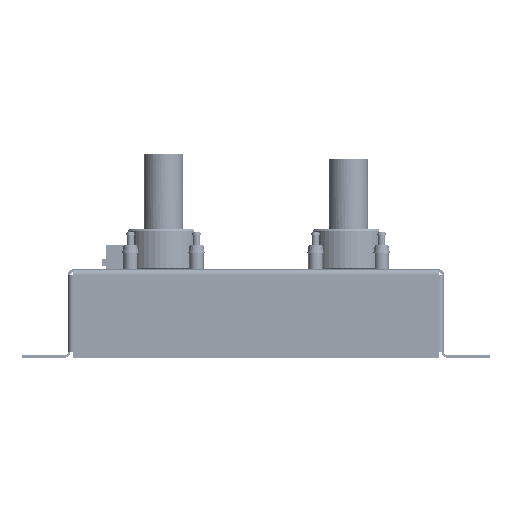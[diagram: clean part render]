
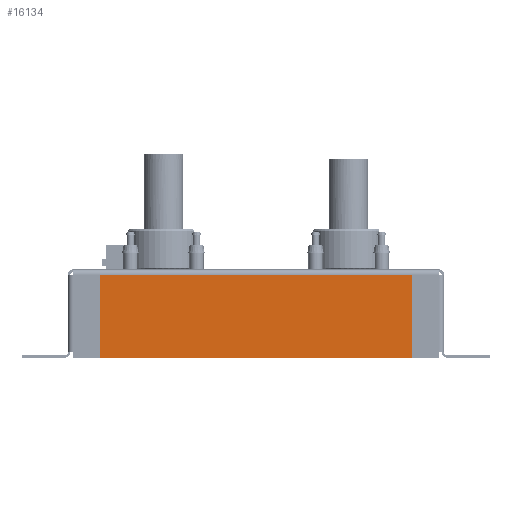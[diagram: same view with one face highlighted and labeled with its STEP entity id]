
A CAD part, left-side view. The second image highlights one B-rep face of the part: STEP entity #16134.
In plain terms, the highlighted planar face has unit normal (-1, 0, 0).
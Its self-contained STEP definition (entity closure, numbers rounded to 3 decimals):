
#794 = VERTEX_POINT ( 'NONE', #34175 ) ;
#5284 = ORIENTED_EDGE ( 'NONE', *, *, #34389, .T. ) ;
#5724 = VECTOR ( 'NONE', #57398, 1000. ) ;
#10714 = AXIS2_PLACEMENT_3D ( 'NONE', #70244, #50870, #18939 ) ;
#12635 = DIRECTION ( 'NONE',  ( 0., 0., 1. ) ) ;
#13014 = LINE ( 'NONE', #25922, #5724 ) ;
#16134 = ADVANCED_FACE ( 'NONE', ( #84004 ), #39193, .F. ) ;
#16557 = LINE ( 'NONE', #42839, #40821 ) ;
#18939 = DIRECTION ( 'NONE',  ( 0., 1., 0. ) ) ;
#21469 = EDGE_CURVE ( 'NONE', #73215, #24934, #16557, .T. ) ;
#21726 = LINE ( 'NONE', #29451, #51940 ) ;
#24681 = CARTESIAN_POINT ( 'NONE',  ( 793.395, 258.542, -260.596 ) ) ;
#24934 = VERTEX_POINT ( 'NONE', #77565 ) ;
#25922 = CARTESIAN_POINT ( 'NONE',  ( 793.395, 172.709, -259.007 ) ) ;
#27773 = ORIENTED_EDGE ( 'NONE', *, *, #30325, .F. ) ;
#28324 = CARTESIAN_POINT ( 'NONE',  ( 793.395, 172.709, -260.596 ) ) ;
#29451 = CARTESIAN_POINT ( 'NONE',  ( 793.395, 270.154, -241.796 ) ) ;
#30325 = EDGE_CURVE ( 'NONE', #54544, #73215, #57427, .T. ) ;
#34175 = CARTESIAN_POINT ( 'NONE',  ( 793.395, 172.709, -241.796 ) ) ;
#34389 = EDGE_CURVE ( 'NONE', #54544, #794, #13014, .T. ) ;
#36494 = ORIENTED_EDGE ( 'NONE', *, *, #65484, .F. ) ;
#37918 = CARTESIAN_POINT ( 'NONE',  ( 793.395, 255.709, -260.596 ) ) ;
#39193 = PLANE ( 'NONE',  #10714 ) ;
#40821 = VECTOR ( 'NONE', #12635, 1000. ) ;
#42839 = CARTESIAN_POINT ( 'NONE',  ( 793.395, 255.709, -275.219 ) ) ;
#50870 = DIRECTION ( 'NONE',  ( 1., 0., 0. ) ) ;
#51393 = DIRECTION ( 'NONE',  ( 0., 1., 0. ) ) ;
#51940 = VECTOR ( 'NONE', #60919, 1000. ) ;
#54289 = ORIENTED_EDGE ( 'NONE', *, *, #21469, .F. ) ;
#54544 = VERTEX_POINT ( 'NONE', #28324 ) ;
#57398 = DIRECTION ( 'NONE',  ( 0., 0., 1. ) ) ;
#57427 = LINE ( 'NONE', #24681, #83516 ) ;
#60919 = DIRECTION ( 'NONE',  ( 0., -1., 0. ) ) ;
#65484 = EDGE_CURVE ( 'NONE', #24934, #794, #21726, .T. ) ;
#70244 = CARTESIAN_POINT ( 'NONE',  ( 793.395, 350.659, -266.218 ) ) ;
#73215 = VERTEX_POINT ( 'NONE', #37918 ) ;
#77565 = CARTESIAN_POINT ( 'NONE',  ( 793.395, 255.709, -241.796 ) ) ;
#77918 = EDGE_LOOP ( 'NONE', ( #54289, #27773, #5284, #36494 ) ) ;
#83516 = VECTOR ( 'NONE', #51393, 1000. ) ;
#84004 = FACE_OUTER_BOUND ( 'NONE', #77918, .T. ) ;
